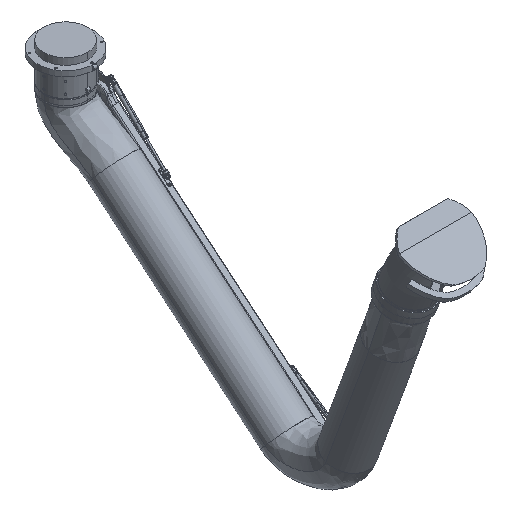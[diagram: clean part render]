
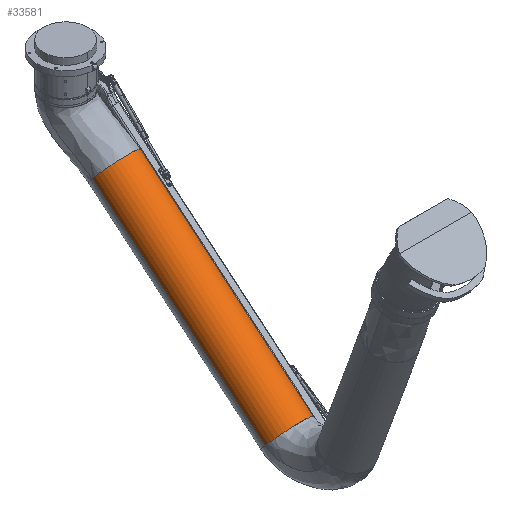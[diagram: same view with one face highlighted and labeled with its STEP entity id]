
A CAD part, isometric view. The second image highlights one B-rep face of the part: STEP entity #33581.
In plain terms, the highlighted free-form (B-spline) face has degree [3, 3] with [7, 6] control points.
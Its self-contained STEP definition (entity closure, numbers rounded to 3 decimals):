
#32354=CARTESIAN_POINT('',(0.,1198.588,-657.229));
#32355=DIRECTION('',(0.,0.94,0.342));
#32356=DIRECTION('',(-1.,0.,0.));
#32357=AXIS2_PLACEMENT_3D('',#32354,#32355,#32356);
#32424=CARTESIAN_POINT('',(0.,234.854,-1008.));
#32425=DIRECTION('',(0.,0.94,0.342));
#32426=DIRECTION('',(-1.,0.,0.));
#32427=AXIS2_PLACEMENT_3D('',#32424,#32425,#32426);
#32432=CARTESIAN_POINT('',(-100.,234.854,
-1008.));
#32433=CARTESIAN_POINT('',(-100.,341.935,
-969.026));
#32434=CARTESIAN_POINT('',(-100.,556.098,
-891.077));
#32435=CARTESIAN_POINT('',(-100.,877.343,
-774.153));
#32436=CARTESIAN_POINT('',(-100.,1091.507,
-696.204));
#32437=CARTESIAN_POINT('',(-100.,1198.588,
-657.23));
#32695=CARTESIAN_POINT('',(100.,234.853,
-1008.));
#32696=CARTESIAN_POINT('',(100.,341.935,
-969.025));
#32697=CARTESIAN_POINT('',(100.,556.098,
-891.076));
#32698=CARTESIAN_POINT('',(100.,877.343,
-774.153));
#32699=CARTESIAN_POINT('',(100.,1091.506,
-696.204));
#32700=CARTESIAN_POINT('',(100.,1198.588,
-657.229));
#33295=CARTESIAN_POINT('',(100.,234.853,
-1008.));
#33296=CARTESIAN_POINT('',(-100.,234.854,
-1008.));
#33297=VERTEX_POINT('',#33295);
#33298=VERTEX_POINT('',#33296);
#33303=VERTEX_POINT('',#32700);
#33304=VERTEX_POINT('',#32437);
#33529=CARTESIAN_POINT('',(-99.803,217.727,
-1020.916));
#33530=CARTESIAN_POINT('',(-99.803,224.151,
-1018.578));
#33531=CARTESIAN_POINT('',(-99.803,551.821,
-899.316));
#33532=CARTESIAN_POINT('',(-99.803,885.916,
-777.715));
#33533=CARTESIAN_POINT('',(-99.803,1213.586,
-658.453));
#33534=CARTESIAN_POINT('',(-99.803,1220.01,
-656.115));
#33535=CARTESIAN_POINT('',(-103.667,196.72,
-963.202));
#33536=CARTESIAN_POINT('',(-103.667,203.145,
-960.863));
#33537=CARTESIAN_POINT('',(-103.667,530.815,
-841.601));
#33538=CARTESIAN_POINT('',(-103.667,864.909,
-720.001));
#33539=CARTESIAN_POINT('',(-103.667,1192.579,
-600.739));
#33540=CARTESIAN_POINT('',(-103.667,1199.004,
-598.4));
#33541=CARTESIAN_POINT('',(-61.54,181.377,
-921.046));
#33542=CARTESIAN_POINT('',(-61.54,187.802,
-918.708));
#33543=CARTESIAN_POINT('',(-61.54,515.472,
-799.446));
#33544=CARTESIAN_POINT('',(-61.54,849.566,
-677.845));
#33545=CARTESIAN_POINT('',(-61.54,1177.236,
-558.583));
#33546=CARTESIAN_POINT('',(-61.54,1183.661,
-556.245));
#33547=CARTESIAN_POINT('',(0.,181.377,
-921.046));
#33548=CARTESIAN_POINT('',(0.,187.802,
-918.708));
#33549=CARTESIAN_POINT('',(0.,515.471,
-799.446));
#33550=CARTESIAN_POINT('',(0.,849.566,
-677.845));
#33551=CARTESIAN_POINT('',(0.,1177.236,
-558.583));
#33552=CARTESIAN_POINT('',(0.,1183.661,
-556.245));
#33553=CARTESIAN_POINT('',(61.54,181.377,
-921.046));
#33554=CARTESIAN_POINT('',(61.54,187.802,
-918.707));
#33555=CARTESIAN_POINT('',(61.54,515.471,
-799.445));
#33556=CARTESIAN_POINT('',(61.54,849.566,
-677.845));
#33557=CARTESIAN_POINT('',(61.54,1177.236,
-558.583));
#33558=CARTESIAN_POINT('',(61.54,1183.661,
-556.244));
#33559=CARTESIAN_POINT('',(103.667,196.72,
-963.201));
#33560=CARTESIAN_POINT('',(103.667,203.145,
-960.863));
#33561=CARTESIAN_POINT('',(103.667,530.815,
-841.601));
#33562=CARTESIAN_POINT('',(103.667,864.909,
-720.));
#33563=CARTESIAN_POINT('',(103.667,1192.579,
-600.738));
#33564=CARTESIAN_POINT('',(103.667,1199.004,
-598.4));
#33565=CARTESIAN_POINT('',(99.803,217.726,
-1020.915));
#33566=CARTESIAN_POINT('',(99.803,224.151,
-1018.577));
#33567=CARTESIAN_POINT('',(99.803,551.821,
-899.315));
#33568=CARTESIAN_POINT('',(99.803,885.916,
-777.714));
#33569=CARTESIAN_POINT('',(99.803,1213.585,
-658.452));
#33570=CARTESIAN_POINT('',(99.803,1220.01,
-656.114));
#33571=(BOUNDED_SURFACE()B_SPLINE_SURFACE(3,3,((#33529,#33530,#33531,#33532,
#33533,#33534),(#33535,#33536,#33537,#33538,#33539,#33540),(#33541,#33542,
#33543,#33544,#33545,#33546),(#33547,#33548,#33549,#33550,#33551,#33552),
(#33553,#33554,#33555,#33556,#33557,#33558),(#33559,#33560,#33561,#33562,#33563,
#33564),(#33565,#33566,#33567,#33568,#33569,#33570)),.UNSPECIFIED.,.F.,.F.,.F.)B_SPLINE_SURFACE_WITH_KNOTS((4,3,4),(4,1,1,4),(0.,1.,2.),(-0.02,0.,1.,
1.02),.UNSPECIFIED.)GEOMETRIC_REPRESENTATION_ITEM()RATIONAL_B_SPLINE_SURFACE((
(1.187,1.187,1.187,1.187,
1.187,1.187),(0.938,0.938,
0.938,0.938,0.938,0.938),(
0.938,0.938,0.938,0.938,
0.938,0.938),(1.187,1.187,
1.187,1.187,1.187,1.187),(
0.938,0.938,0.938,0.938,
0.938,0.938),(0.938,0.938,
0.938,0.938,0.938,0.938),(
1.187,1.187,1.187,1.187,
1.187,1.187)))REPRESENTATION_ITEM('')SURFACE());
#33573=ORIENTED_EDGE('',*,*,#33572,.F.);
#33575=ORIENTED_EDGE('',*,*,#33574,.T.);
#33576=ORIENTED_EDGE('',*,*,#33512,.T.);
#33578=ORIENTED_EDGE('',*,*,#33577,.F.);
#33579=EDGE_LOOP('',(#33573,#33575,#33576,#33578));
#33580=FACE_OUTER_BOUND('',#33579,.F.);
#32358=CIRCLE('',#32357,100.);
#32428=CIRCLE('',#32427,100.);
#32438=B_SPLINE_CURVE_WITH_KNOTS('',3,(#32432,#32433,#32434,#32435,#32436,
#32437),.UNSPECIFIED.,.F.,.F.,(4,1,1,4),(0.,0.333,
0.667,1.),.UNSPECIFIED.);
#32701=B_SPLINE_CURVE_WITH_KNOTS('',3,(#32695,#32696,#32697,#32698,#32699,
#32700),.UNSPECIFIED.,.F.,.F.,(4,1,1,4),(0.,0.333,
0.667,1.),.UNSPECIFIED.);
#33512=EDGE_CURVE('',#33304,#33303,#32358,.T.);
#33572=EDGE_CURVE('',#33298,#33297,#32428,.T.);
#33574=EDGE_CURVE('',#33298,#33304,#32438,.T.);
#33577=EDGE_CURVE('',#33297,#33303,#32701,.T.);
#33581=ADVANCED_FACE('',(#33580),#33571,.T.);
